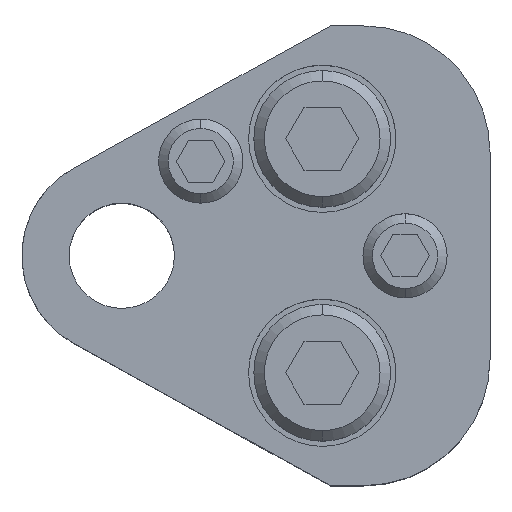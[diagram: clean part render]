
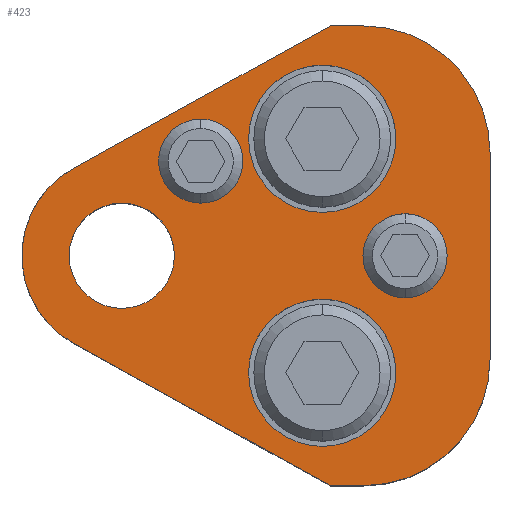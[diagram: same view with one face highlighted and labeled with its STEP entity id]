
A CAD part, top view. The second image highlights one B-rep face of the part: STEP entity #423.
In plain terms, the highlighted planar face has unit normal (0, 0, 1).
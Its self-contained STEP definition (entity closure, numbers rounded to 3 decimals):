
#198=FACE_BOUND('',#745,.T.);
#199=FACE_BOUND('',#746,.T.);
#200=FACE_BOUND('',#747,.T.);
#201=FACE_BOUND('',#748,.T.);
#202=FACE_BOUND('',#749,.T.);
#203=FACE_BOUND('',#750,.T.);
#273=CIRCLE('',#2385,12.);
#275=CIRCLE('',#2389,12.);
#277=CIRCLE('',#2394,4.);
#279=CIRCLE('',#2397,4.);
#281=CIRCLE('',#2400,4.);
#283=CIRCLE('',#2403,4.);
#293=CIRCLE('',#2418,9.5);
#294=CIRCLE('',#2419,7.);
#295=CIRCLE('',#2420,7.);
#296=CIRCLE('',#2421,7.);
#297=CIRCLE('',#2422,7.);
#298=CIRCLE('',#2423,5.);
#299=CIRCLE('',#2424,5.);
#423=ADVANCED_FACE('',(#198,#199,#200,#201,#202,#203),#519,.T.);
#519=PLANE('',#2425);
#745=EDGE_LOOP('',(#1122,#1123,#1124,#1125,#1126,#1127,#1128,#1129));
#746=EDGE_LOOP('',(#1130,#1131));
#747=EDGE_LOOP('',(#1132,#1133));
#748=EDGE_LOOP('',(#1134,#1135));
#749=EDGE_LOOP('',(#1136,#1137));
#750=EDGE_LOOP('',(#1138,#1139));
#1122=ORIENTED_EDGE('',*,*,#1794,.T.);
#1123=ORIENTED_EDGE('',*,*,#1752,.T.);
#1124=ORIENTED_EDGE('',*,*,#1756,.T.);
#1125=ORIENTED_EDGE('',*,*,#1759,.T.);
#1126=ORIENTED_EDGE('',*,*,#1762,.T.);
#1127=ORIENTED_EDGE('',*,*,#1765,.T.);
#1128=ORIENTED_EDGE('',*,*,#1768,.T.);
#1129=ORIENTED_EDGE('',*,*,#1795,.T.);
#1130=ORIENTED_EDGE('',*,*,#1796,.F.);
#1131=ORIENTED_EDGE('',*,*,#1797,.F.);
#1132=ORIENTED_EDGE('',*,*,#1798,.F.);
#1133=ORIENTED_EDGE('',*,*,#1799,.F.);
#1134=ORIENTED_EDGE('',*,*,#1780,.F.);
#1135=ORIENTED_EDGE('',*,*,#1776,.F.);
#1136=ORIENTED_EDGE('',*,*,#1774,.F.);
#1137=ORIENTED_EDGE('',*,*,#1770,.F.);
#1138=ORIENTED_EDGE('',*,*,#1800,.T.);
#1139=ORIENTED_EDGE('',*,*,#1801,.T.);
#1513=VERTEX_POINT('',#3544);
#1514=VERTEX_POINT('',#3546);
#1517=VERTEX_POINT('',#3553);
#1519=VERTEX_POINT('',#3559);
#1521=VERTEX_POINT('',#3565);
#1523=VERTEX_POINT('',#3571);
#1525=VERTEX_POINT('',#3577);
#1526=VERTEX_POINT('',#3582);
#1527=VERTEX_POINT('',#3583);
#1530=VERTEX_POINT('',#3594);
#1531=VERTEX_POINT('',#3595);
#1542=VERTEX_POINT('',#3630);
#1543=VERTEX_POINT('',#3633);
#1544=VERTEX_POINT('',#3634);
#1545=VERTEX_POINT('',#3637);
#1546=VERTEX_POINT('',#3638);
#1547=VERTEX_POINT('',#3641);
#1548=VERTEX_POINT('',#3642);
#1752=EDGE_CURVE('',#1514,#1513,#2006,.T.);
#1756=EDGE_CURVE('',#1513,#1517,#273,.T.);
#1759=EDGE_CURVE('',#1517,#1519,#2011,.T.);
#1762=EDGE_CURVE('',#1519,#1521,#275,.T.);
#1765=EDGE_CURVE('',#1521,#1523,#2015,.T.);
#1768=EDGE_CURVE('',#1523,#1525,#2018,.T.);
#1770=EDGE_CURVE('',#1526,#1527,#277,.T.);
#1774=EDGE_CURVE('',#1527,#1526,#279,.T.);
#1776=EDGE_CURVE('',#1530,#1531,#281,.T.);
#1780=EDGE_CURVE('',#1531,#1530,#283,.T.);
#1794=EDGE_CURVE('',#1542,#1514,#2028,.T.);
#1795=EDGE_CURVE('',#1525,#1542,#293,.T.);
#1796=EDGE_CURVE('',#1543,#1544,#294,.T.);
#1797=EDGE_CURVE('',#1544,#1543,#295,.T.);
#1798=EDGE_CURVE('',#1545,#1546,#296,.T.);
#1799=EDGE_CURVE('',#1546,#1545,#297,.T.);
#1800=EDGE_CURVE('',#1547,#1548,#298,.T.);
#1801=EDGE_CURVE('',#1548,#1547,#299,.T.);
#2006=LINE('',#3545,#2179);
#2011=LINE('',#3560,#2184);
#2015=LINE('',#3572,#2188);
#2018=LINE('',#3578,#2191);
#2028=LINE('',#3629,#2201);
#2179=VECTOR('',#2815,1.);
#2184=VECTOR('',#2828,1.);
#2188=VECTOR('',#2840,1.);
#2191=VECTOR('',#2845,1.);
#2201=VECTOR('',#2905,1.);
#2385=AXIS2_PLACEMENT_3D('',#3554,#2821,#2822);
#2389=AXIS2_PLACEMENT_3D('',#3566,#2833,#2834);
#2394=AXIS2_PLACEMENT_3D('',#3581,#2849,#2850);
#2397=AXIS2_PLACEMENT_3D('',#3590,#2857,#2858);
#2400=AXIS2_PLACEMENT_3D('',#3593,#2863,#2864);
#2403=AXIS2_PLACEMENT_3D('',#3602,#2871,#2872);
#2418=AXIS2_PLACEMENT_3D('',#3631,#2906,#2907);
#2419=AXIS2_PLACEMENT_3D('',#3632,#2908,#2909);
#2420=AXIS2_PLACEMENT_3D('',#3635,#2910,#2911);
#2421=AXIS2_PLACEMENT_3D('',#3636,#2912,#2913);
#2422=AXIS2_PLACEMENT_3D('',#3639,#2914,#2915);
#2423=AXIS2_PLACEMENT_3D('',#3640,#2916,#2917);
#2424=AXIS2_PLACEMENT_3D('',#3643,#2918,#2919);
#2425=AXIS2_PLACEMENT_3D('',#3644,#2920,#2921);
#2815=DIRECTION('',(1.,0.,0.));
#2821=DIRECTION('',(0.,0.,1.));
#2822=DIRECTION('',(-0.707,0.707,0.));
#2828=DIRECTION('',(0.,1.,0.));
#2833=DIRECTION('',(0.,0.,1.));
#2834=DIRECTION('',(-0.707,-0.707,0.));
#2840=DIRECTION('',(-1.,0.,0.));
#2845=DIRECTION('',(-0.875,-0.485,0.));
#2849=DIRECTION('',(0.,0.,1.));
#2850=DIRECTION('',(-1.,0.,0.));
#2857=DIRECTION('',(0.,0.,1.));
#2858=DIRECTION('',(1.,0.,0.));
#2863=DIRECTION('',(0.,0.,1.));
#2864=DIRECTION('',(-1.,0.,0.));
#2871=DIRECTION('',(0.,0.,1.));
#2872=DIRECTION('',(1.,0.,0.));
#2905=DIRECTION('',(0.875,-0.485,0.));
#2906=DIRECTION('',(0.,0.,1.));
#2907=DIRECTION('',(1.,0.,0.));
#2908=DIRECTION('',(0.,0.,1.));
#2909=DIRECTION('',(1.,0.,0.));
#2910=DIRECTION('',(0.,0.,1.));
#2911=DIRECTION('',(-1.,0.,0.));
#2912=DIRECTION('',(0.,0.,1.));
#2913=DIRECTION('',(1.,0.,0.));
#2914=DIRECTION('',(0.,0.,1.));
#2915=DIRECTION('',(-1.,0.,0.));
#2916=DIRECTION('',(0.,0.,-1.));
#2917=DIRECTION('',(-1.,0.,0.));
#2918=DIRECTION('',(0.,0.,-1.));
#2919=DIRECTION('',(1.,0.,0.));
#2920=DIRECTION('',(0.,0.,1.));
#2921=DIRECTION('',(-0.875,0.485,0.));
#3544=CARTESIAN_POINT('',(23.,-21.85,25.));
#3545=CARTESIAN_POINT('',(19.823,-21.85,25.));
#3546=CARTESIAN_POINT('',(19.823,-21.85,25.));
#3553=CARTESIAN_POINT('',(35.,-9.85,25.));
#3554=CARTESIAN_POINT('',(23.,-9.85,25.));
#3559=CARTESIAN_POINT('',(35.,9.85,25.));
#3560=CARTESIAN_POINT('',(35.,9.85,25.));
#3565=CARTESIAN_POINT('',(23.,21.85,25.));
#3566=CARTESIAN_POINT('',(23.,9.85,25.));
#3571=CARTESIAN_POINT('',(19.823,21.85,25.));
#3572=CARTESIAN_POINT('',(19.823,21.85,25.));
#3577=CARTESIAN_POINT('',(-4.606,8.309,25.));
#3578=CARTESIAN_POINT('',(19.823,21.85,25.));
#3581=CARTESIAN_POINT('',(7.5,9.,25.));
#3582=CARTESIAN_POINT('',(7.5,5.,25.));
#3583=CARTESIAN_POINT('',(7.5,13.,25.));
#3590=CARTESIAN_POINT('',(7.5,9.,25.));
#3593=CARTESIAN_POINT('',(26.925,0.,25.));
#3594=CARTESIAN_POINT('',(26.925,-4.,25.));
#3595=CARTESIAN_POINT('',(26.925,4.,25.));
#3602=CARTESIAN_POINT('',(26.925,0.,25.));
#3629=CARTESIAN_POINT('',(19.823,-21.85,25.));
#3630=CARTESIAN_POINT('',(-4.606,-8.309,25.));
#3631=CARTESIAN_POINT('',(0.,0.,25.));
#3632=CARTESIAN_POINT('',(19.05,11.12,25.));
#3633=CARTESIAN_POINT('',(19.05,18.12,25.));
#3634=CARTESIAN_POINT('',(19.05,4.12,25.));
#3635=CARTESIAN_POINT('',(19.05,11.12,25.));
#3636=CARTESIAN_POINT('',(19.05,-11.12,25.));
#3637=CARTESIAN_POINT('',(19.05,-4.12,25.));
#3638=CARTESIAN_POINT('',(19.05,-18.12,25.));
#3639=CARTESIAN_POINT('',(19.05,-11.12,25.));
#3640=CARTESIAN_POINT('',(0.,0.,25.));
#3641=CARTESIAN_POINT('',(0.,5.,25.));
#3642=CARTESIAN_POINT('',(0.,-5.,25.));
#3643=CARTESIAN_POINT('',(0.,0.,25.));
#3644=CARTESIAN_POINT('',(-4.606,-8.309,25.));
